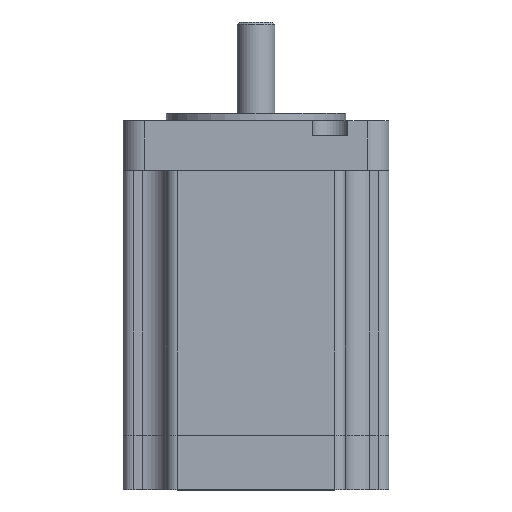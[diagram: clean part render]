
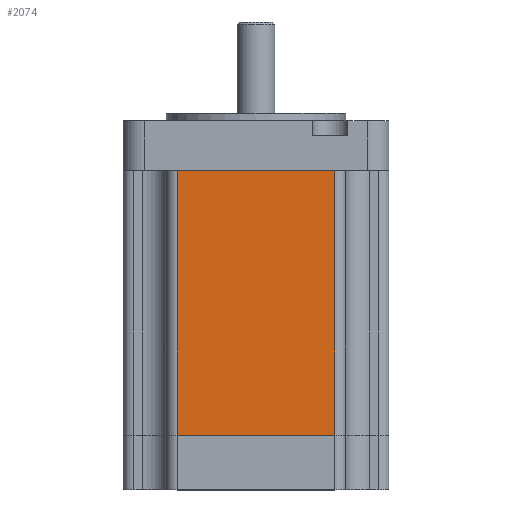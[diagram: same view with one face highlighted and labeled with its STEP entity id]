
A CAD part, top view. The second image highlights one B-rep face of the part: STEP entity #2074.
In plain terms, the highlighted planar face has unit normal (0, 0, 1).
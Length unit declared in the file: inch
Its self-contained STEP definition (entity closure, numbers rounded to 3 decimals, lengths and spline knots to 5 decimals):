
#121=LINE('',#3341,#303);
#122=LINE('',#3344,#304);
#123=LINE('',#3346,#305);
#124=LINE('',#3347,#306);
#303=VECTOR('',#2726,2.2126);
#304=VECTOR('',#2729,1.31496);
#305=VECTOR('',#2730,1.31496);
#306=VECTOR('',#2731,2.2126);
#526=FACE_OUTER_BOUND('',#650,.T.);
#650=EDGE_LOOP('',(#1635,#1636,#1637,#1638));
#937=VERTEX_POINT('',#3337);
#938=VERTEX_POINT('',#3339);
#939=VERTEX_POINT('',#3343);
#940=VERTEX_POINT('',#3345);
#1196=EDGE_CURVE('',#938,#937,#121,.T.);
#1197=EDGE_CURVE('',#937,#939,#122,.T.);
#1198=EDGE_CURVE('',#940,#938,#123,.T.);
#1199=EDGE_CURVE('',#940,#939,#124,.T.);
#1635=ORIENTED_EDGE('',*,*,#1197,.F.);
#1636=ORIENTED_EDGE('',*,*,#1196,.F.);
#1637=ORIENTED_EDGE('',*,*,#1198,.F.);
#1638=ORIENTED_EDGE('',*,*,#1199,.T.);
#1888=PLANE('',#2271);
#2074=ADVANCED_FACE('',(#526),#1888,.F.);
#2271=AXIS2_PLACEMENT_3D('',#3342,#2727,#2728);
#2726=DIRECTION('',(0.,-1.,0.));
#2727=DIRECTION('center_axis',(0.,0.,-1.));
#2728=DIRECTION('ref_axis',(-1.,0.,0.));
#2729=DIRECTION('',(-1.,0.,0.));
#2730=DIRECTION('',(1.,0.,0.));
#2731=DIRECTION('',(0.,-1.,0.));
#3337=CARTESIAN_POINT('',(-0.98891,-0.73248,1.40141));
#3339=CARTESIAN_POINT('',(-0.98891,1.48012,1.40141));
#3341=CARTESIAN_POINT('',(-0.98891,1.48012,1.40141));
#3342=CARTESIAN_POINT('Origin',(-2.30387,1.48602,1.40141));
#3343=CARTESIAN_POINT('',(-2.30387,-0.73248,1.40141));
#3344=CARTESIAN_POINT('',(-0.98891,-0.73248,1.40141));
#3345=CARTESIAN_POINT('',(-2.30387,1.48012,1.40141));
#3346=CARTESIAN_POINT('',(-2.30387,1.48012,1.40141));
#3347=CARTESIAN_POINT('',(-2.30387,1.48012,1.40141));
